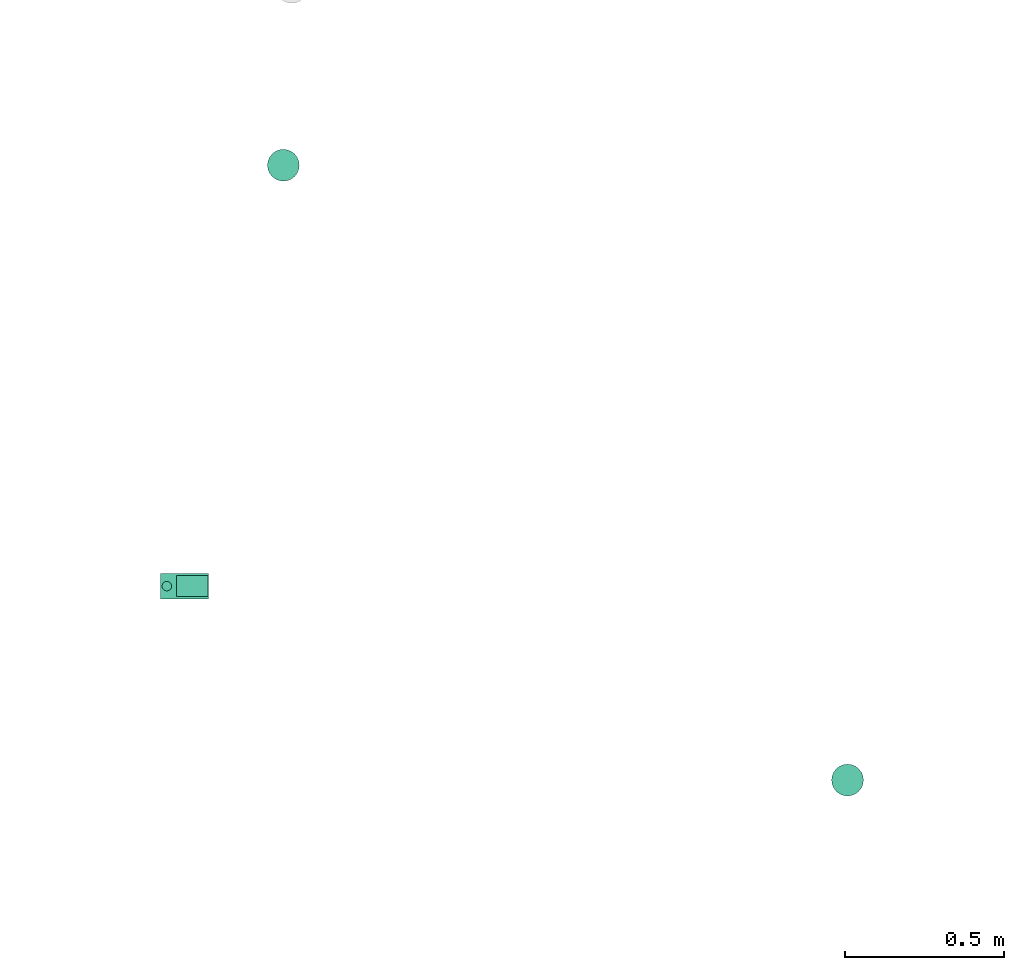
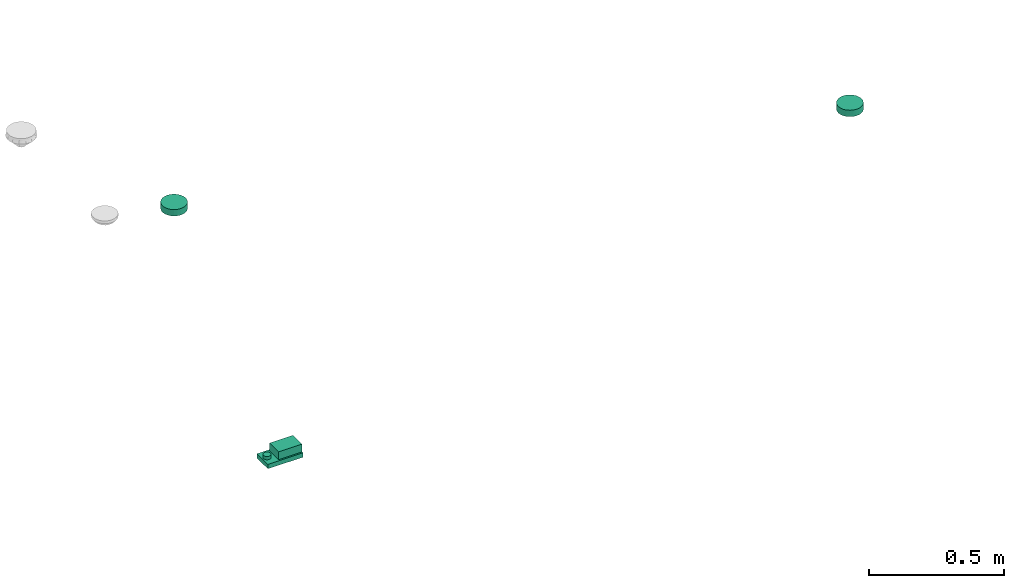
# One storey, part 4 of 10: 3 distribution control elements.
"""IFC2X3 building model written with IfcOpenShell, lengths in millimetres."""

from ifc_helpers import new_model, entity, si_unit, converted_unit, derived_unit, direction, frame, origin_with_axes, place, context, subcontext, project, spatial, open_shell, surface_model, source, transform, mapped, type_object, element, save


model = new_model("IFC2X3")

# Units and contexts
model_context = context("Model", 3, precision=0.01, world=frame((0.0, 4.29681676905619e-09, 0.0)), true_north=direction((4.01073788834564e-13, 1.0)))
plan_context = context("Plan", 3, precision=0.01, world=frame((0.0, 4.29681676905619e-09, 0.0)), true_north=direction((4.01073788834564e-13, 1.0)))
body_context = subcontext(model_context, "Body", "Model", "MODEL_VIEW")
ifc_project = project(units=[converted_unit("PLANEANGLEUNIT", "DEGREE", entity("IfcPositiveLengthMeasure", 0.0174532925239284), si_unit("PLANEANGLEUNIT", "RADIAN"), dimensions=[0, 0, 0, 0, 0, 0, 0]), si_unit("AREAUNIT", "SQUARE_METRE"), si_unit("LENGTHUNIT", "METRE", prefix="MILLI"), si_unit("MASSUNIT", "GRAM", prefix="KILO"), si_unit("POWERUNIT", "WATT"), si_unit("PRESSUREUNIT", "PASCAL"), si_unit("FORCEUNIT", "NEWTON", prefix="KILO"), si_unit("ELECTRICVOLTAGEUNIT", "VOLT"), si_unit("ELECTRICCURRENTUNIT", "AMPERE"), si_unit("THERMODYNAMICTEMPERATUREUNIT", "DEGREE_CELSIUS"), si_unit("TIMEUNIT", "SECOND"), si_unit("VOLUMEUNIT", "CUBIC_METRE"), derived_unit("LINEARVELOCITYUNIT", [(si_unit("LENGTHUNIT", "METRE"), 1), (si_unit("TIMEUNIT", "SECOND"), -1)]), derived_unit("VOLUMETRICFLOWRATEUNIT", [(si_unit("VOLUMEUNIT", "CUBIC_METRE"), 1), (si_unit("TIMEUNIT", "SECOND"), -1)]), derived_unit("THERMALTRANSMITTANCEUNIT", [(si_unit("POWERUNIT", "WATT"), 1), (si_unit("THERMODYNAMICTEMPERATUREUNIT", "KELVIN"), -1), (si_unit("AREAUNIT", "SQUARE_METRE"), -1)]), derived_unit("SOUNDPRESSUREUNIT", [(si_unit("PRESSUREUNIT", "PASCAL"), 1)])], contexts=[model_context, plan_context])

# Site, building, storey
site_placement = place(None, frame((0.0, -4.29681676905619e-09, 0.0), z_axis=(0.0, 0.0, 1.0), x_axis=(1.0, 0.0, 0.0)))
site = spatial("IfcSite", under=ifc_project, at=site_placement, Name="ENGM", CompositionType="ELEMENT")
building_placement = place(site_placement, frame((0.0, 4.29681676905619e-09, 0.0), z_axis=(0.0, 0.0, 1.0), x_axis=(1.0, 0.0, 0.0)))
building = spatial("IfcBuilding", under=site, at=building_placement, Name="TS", CompositionType="ELEMENT")
storey_placement = place(building_placement, frame((0.0, 0.0, 210900.0), z_axis=(0.0, 0.0, 1.0), x_axis=(1.0, 0.0, 0.0)))
storey = spatial("IfcBuildingStorey", under=building, at=storey_placement, Name="Nivå F", CompositionType="ELEMENT", Elevation=210900.0)

# Distribution control elements
alarm_type_1 = type_object("IfcAlarmType", Name="Standard", PredefinedType="NOTDEFINED")
shared_shape_1 = source(origin_with_axes(), body_context, "Body", "SurfaceModel", [
    surface_model("IfcShellBasedSurfaceModel", [(-25.0, 43.30127, -28.9), (-35.35534, 35.35534, -28.9), (-18.0, 31.17691, -28.9), (-25.45584, 25.45584, -28.9), (-9.31749, 34.77333, -28.9), (-12.94095, 48.29629, -28.9), (0.0, 36.0, -28.9), (0.0, 50.0, -28.9), (-34.77333, 9.31749, -28.9), (-43.30127, 25.0, -28.9), (-48.29629, 12.94095, -28.9), (-36.0, 0.0, -28.9), (-50.0, 0.0, -28.9), (-31.17691, 18.0, -28.9), (9.31749, 34.77333, -28.9), (12.94095, 48.29629, -28.9), (18.0, 31.17691, -28.9), (35.35534, 35.35534, -28.9), (25.0, 43.30127, -28.9), (25.45584, 25.45584, -28.9), (31.17691, 18.0, -28.9), (34.77333, 9.31749, -28.9), (43.30127, 25.0, -28.9), (48.29629, 12.94095, -28.9), (36.0, 0.0, -28.9), (50.0, 0.0, -28.9), (-34.77333, -9.31749, -28.9), (-48.29629, -12.94095, -28.9), (-31.17691, -18.0, -28.9), (-43.30127, -25.0, -28.9), (-25.45584, -25.45584, -28.9), (-35.35534, -35.35534, -28.9), (-18.0, -31.17691, -28.9), (-25.0, -43.30127, -28.9), (-9.31749, -34.77333, -28.9), (-12.94095, -48.29629, -28.9), (0.0, -36.0, -28.9), (0.0, -50.0, -28.9), (43.30127, -25.0, -28.9), (31.17691, -18.0, -28.9), (35.35534, -35.35534, -28.9), (34.77333, -9.31749, -28.9), (48.29629, -12.94095, -28.9), (25.45584, -25.45584, -28.9), (9.31749, -34.77333, -28.9), (12.94095, -48.29629, -28.9), (18.0, -31.17691, -28.9), (25.0, -43.30127, -28.9), (-25.0, -43.30127, -29.1), (-35.35534, -35.35534, -29.1), (-18.0, -31.17691, -29.1), (-25.45584, -25.45584, -29.1), (-9.31749, -34.77333, -29.1), (-12.94095, -48.29629, -29.1), (0.0, -36.0, -29.1), (0.0, -50.0, -29.1), (-34.77333, -9.31749, -29.1), (-43.30127, -25.0, -29.1), (-48.29629, -12.94095, -29.1), (-36.0, 0.0, -29.1), (-50.0, 0.0, -29.1), (-31.17691, -18.0, -29.1), (9.31749, -34.77333, -29.1), (12.94095, -48.29629, -29.1), (18.0, -31.17691, -29.1), (35.35534, -35.35534, -29.1), (25.0, -43.30127, -29.1), (25.45584, -25.45584, -29.1), (31.17691, -18.0, -29.1), (34.77333, -9.31749, -29.1), (43.30127, -25.0, -29.1), (48.29629, -12.94095, -29.1), (36.0, 0.0, -29.1), (50.0, 0.0, -29.1), (-34.77333, 9.31749, -29.1), (-48.29629, 12.94095, -29.1), (-31.17691, 18.0, -29.1), (-43.30127, 25.0, -29.1), (-25.45584, 25.45584, -29.1), (-35.35534, 35.35534, -29.1), (-18.0, 31.17691, -29.1), (-25.0, 43.30127, -29.1), (-9.31749, 34.77333, -29.1), (-12.94095, 48.29629, -29.1), (0.0, 36.0, -29.1), (0.0, 50.0, -29.1), (43.30127, 25.0, -29.1), (31.17691, 18.0, -29.1), (35.35534, 35.35534, -29.1), (34.77333, 9.31749, -29.1), (48.29629, 12.94095, -29.1), (25.45584, 25.45584, -29.1), (9.31749, 34.77333, -29.1), (12.94095, 48.29629, -29.1), (18.0, 31.17691, -29.1), (25.0, 43.30127, -29.1), (6.47048, -24.14815, -44.9), (12.5, -21.65064, -44.9), (17.67767, -17.67767, -44.9), (24.14815, -6.47048, -44.9), (-24.14815, -6.47048, -44.9), (21.65064, -12.5, -44.9), (-21.65064, 12.5, -44.9), (0.0, -25.0, -44.9), (-12.5, -21.65064, -44.9), (-6.47048, -24.14815, -44.9), (-17.67767, -17.67767, -44.9), (-21.65064, -12.5, -44.9), (25.0, 0.0, -44.9), (24.14815, 6.47048, -44.9), (21.65064, 12.5, -44.9), (17.67767, 17.67767, -44.9), (12.5, 21.65064, -44.9), (6.47048, 24.14815, -44.9), (0.0, 25.0, -44.9), (-25.0, 0.0, -44.9), (-24.14815, 6.47048, -44.9), (-12.5, 21.65064, -44.9), (-17.67767, 17.67767, -44.9), (-6.47048, 24.14815, -44.9), (0.0, 25.0, -45.1), (6.47048, 24.14815, -45.1), (12.5, 21.65064, -45.1), (-21.65064, 12.5, -45.1), (17.67767, 17.67767, -45.1), (21.65064, 12.5, -45.1), (24.14815, 6.47048, -45.1), (-12.5, 21.65064, -45.1), (-17.67767, 17.67767, -45.1), (-6.47048, 24.14815, -45.1), (-25.0, 0.0, -45.1), (-24.14815, 6.47048, -45.1), (-24.14815, -6.47048, -45.1), (24.14815, -6.47048, -45.1), (6.47048, -24.14815, -45.1), (21.65064, -12.5, -45.1), (17.67767, -17.67767, -45.1), (12.5, -21.65064, -45.1), (-12.5, -21.65064, -45.1), (-17.67767, -17.67767, -45.1), (-21.65064, -12.5, -45.1), (0.0, -25.0, -45.1), (-6.47048, -24.14815, -45.1), (25.0, 0.0, -45.1), (-1.46739, 34.60682, -29.0), (0.0, 34.8, -29.0), (0.0, 35.0, -29.0), (-34.60682, 1.46739, -29.0), (-35.0, 0.0, -29.0), (-34.8, 0.0, -29.0), (-17.5, 30.31089, -29.0), (-18.5742, 29.23669, -29.0), (-17.4, 30.13768, -29.0), (-24.60732, -24.60732, -29.0), (-18.5742, -29.23669, -29.0), (-29.23669, -18.5742, -29.0), (34.8, 0.0, -29.0), (34.60682, -1.46739, -29.0), (35.0, 0.0, -29.0), (17.4, 30.13768, -29.0), (17.5, 30.31089, -29.0), (16.03261, 30.70407, -29.0), (30.13768, 17.4, -29.0), (30.31089, 17.5, -29.0), (29.23669, 18.5742, -29.0), (34.60682, 1.46739, -29.0), (33.61422, -9.0069, -29.0), (30.70407, -16.03261, -29.0), (-33.61422, -9.0069, -29.0), (-30.70407, -16.03261, -29.0), (-34.60682, -1.46739, -29.0), (-30.13768, -17.4, -29.0), (-30.31089, -17.5, -29.0), (-17.5, -30.31089, -29.0), (-17.4, -30.13768, -29.0), (-1.46739, -34.60682, -29.0), (0.0, -35.0, -29.0), (0.0, -34.8, -29.0), (-16.03261, -30.70407, -29.0), (-9.0069, -33.61422, -29.0), (1.46739, -34.60682, -29.0), (30.13768, -17.4, -29.0), (29.23669, -18.5742, -29.0), (30.31089, -17.5, -29.0), (24.60732, -24.60732, -29.0), (18.5742, -29.23669, -29.0), (9.0069, -33.61422, -29.0), (16.03261, -30.70407, -29.0), (-30.13768, 17.4, -29.0), (-30.31089, 17.5, -29.0), (-30.70407, 16.03261, -29.0), (17.4, -30.13768, -29.0), (17.5, -30.31089, -29.0), (-33.61422, 9.0069, -29.0), (-29.23669, 18.5742, -29.0), (-24.60732, 24.60732, -29.0), (-16.03261, 30.70407, -29.0), (-9.0069, 33.61422, -29.0), (1.46739, 34.60682, -29.0), (9.0069, 33.61422, -29.0), (18.5742, 29.23669, -29.0), (24.60732, 24.60732, -29.0), (30.70407, 16.03261, -29.0), (33.61422, 9.0069, -29.0), (23.00389, 18.55381, -38.25), (14.9, 25.80756, -38.25), (21.07178, 21.07178, -38.25), (29.66376, 1.03484, -38.25), (30.0, 0.0, -38.25), (29.8, 0.0, -38.25), (24.27051, 17.63356, -38.25), (24.68215, 16.36666, -38.25), (10.52665, 27.61906, -38.25), (28.78459, 7.71281, -38.25), (-10.52665, 27.61906, -38.25), (-23.00389, 18.55381, -38.25), (-14.9, 25.80756, -38.25), (8.32335, 28.5317, -38.25), (0.0, 29.8, -38.25), (7.71281, 28.78459, -38.25), (-8.32335, 28.5317, -38.25), (-24.68215, 16.36666, -38.25), (-28.78459, 7.71281, -38.25), (-25.80756, 14.9, -38.25), (-9.27051, 28.5317, -38.25), (-29.66376, 1.03484, -38.25), (-29.8, 0.0, -38.25), (-30.0, 0.0, -38.25), (-28.78459, -7.71281, -38.25), (-24.68215, -16.36666, -38.25), (-25.80756, -14.9, -38.25), (29.66376, -1.03484, -38.25), (-7.71281, 28.78459, -38.25), (25.80756, 14.9, -38.25), (14.9, -25.80756, -38.25), (10.52665, -27.61906, -38.25), (23.00389, -18.55381, -38.25), (28.78459, -7.71281, -38.25), (24.68215, -16.36666, -38.25), (0.0, -29.8, -38.25), (-7.71281, -28.78459, -38.25), (-8.32335, -28.5317, -38.25), (8.32335, -28.5317, -38.25), (9.27051, 28.5317, -38.25), (-29.66376, -1.03484, -38.25), (21.07178, -21.07178, -38.25), (-23.00389, -18.55381, -38.25), (-24.27051, -17.63356, -38.25), (-9.27051, -28.5317, -38.25), (-10.52665, -27.61906, -38.25), (-21.07178, -21.07178, -38.25), (-14.9, -25.80756, -38.25), (9.27051, -28.5317, -38.25), (7.71281, -28.78459, -38.25), (24.27051, -17.63356, -38.25), (25.80756, -14.9, -38.25), (-21.07178, 21.07178, -38.25), (-24.27051, 17.63356, -38.25), (33.28589, -6.39713, -29.0), (27.13526, -8.81678, -38.25), (-16.77051, -23.08263, -38.25), (-23.90544, -23.90544, -29.0), (-27.13526, -8.81678, -38.25), (-33.28589, -6.39713, -29.0), (16.77051, -23.08263, -38.25), (8.75, -32.65544, -29.0), (0.0, -28.5317, -38.25), (23.90544, -23.90544, -29.0), (-8.75, -32.65544, -29.0), (-33.28589, 6.39713, -29.0), (-27.13526, 8.81678, -38.25), (16.77051, 23.08263, -38.25), (23.90544, 23.90544, -29.0), (27.13526, 8.81678, -38.25), (33.28589, 6.39713, -29.0), (-16.77051, 23.08263, -38.25), (-8.75, 32.65544, -29.0), (0.0, 28.5317, -38.25), (-23.90544, 23.90544, -29.0), (8.75, 32.65544, -29.0), (12.4, 21.47743, -45.0), (17.53625, 17.53625, -45.0), (19.07577, 15.5299, -45.0), (20.22543, 14.69463, -45.0), (20.59905, 13.54472, -45.0), (24.66376, 1.03484, -45.0), (25.0, 0.0, -45.0), (24.8, 0.0, -45.0), (8.88673, 22.93267, -45.0), (23.95496, 6.41871, -45.0), (-8.88673, 22.93267, -45.0), (-19.07577, 15.5299, -45.0), (-12.4, 21.47743, -45.0), (6.84976, 23.77641, -45.0), (0.0, 24.8, -45.0), (6.41871, 23.95496, -45.0), (-7.72542, 23.77641, -45.0), (-6.84976, 23.77641, -45.0), (-21.47743, 12.4, -45.0), (-20.59905, 13.54472, -45.0), (-23.95496, 6.41871, -45.0), (-25.0, 0.0, -45.0), (-24.66376, 1.03484, -45.0), (-24.8, 0.0, -45.0), (-23.95496, -6.41871, -45.0), (-20.59905, -13.54472, -45.0), (-21.47743, -12.4, -45.0), (-6.41871, 23.95496, -45.0), (24.66376, -1.03484, -45.0), (21.47743, 12.4, -45.0), (12.4, -21.47743, -45.0), (8.88673, -22.93267, -45.0), (19.07577, -15.5299, -45.0), (23.95496, -6.41871, -45.0), (20.59905, -13.54472, -45.0), (0.0, -24.8, -45.0), (-6.41871, -23.95496, -45.0), (-6.84976, -23.77641, -45.0), (7.72542, -23.77641, -45.0), (6.84976, -23.77641, -45.0), (7.72542, 23.77641, -45.0), (-24.66376, -1.03484, -45.0), (17.53625, -17.53625, -45.0), (-20.22543, -14.69463, -45.0), (-19.07577, -15.5299, -45.0), (-8.88673, -22.93267, -45.0), (-7.72542, -23.77641, -45.0), (-17.53625, -17.53625, -45.0), (-12.4, -21.47743, -45.0), (6.41871, -23.95496, -45.0), (20.22543, -14.69463, -45.0), (21.47743, -12.4, -45.0), (-17.53625, 17.53625, -45.0), (-20.22543, 14.69463, -45.0), (-22.61271, -7.34732, -45.0), (-13.97542, -19.23552, -45.0), (0.0, -23.77641, -45.0), (21.83768, -9.73262, -45.0), (13.97542, -19.23552, -45.0), (23.41884, -4.86631, -45.0), (22.61271, 7.34732, -45.0), (13.97542, 19.23552, -45.0), (0.0, 23.77641, -45.0), (-21.83768, 9.73262, -45.0), (-13.97542, 19.23552, -45.0), (-23.41884, 4.86631, -45.0), (12.94095, -48.29629, 0.0), (25.0, -43.30127, 0.0), (35.35534, -35.35534, 0.0), (48.29629, -12.94095, 0.0), (-48.29629, -12.94095, 0.0), (43.30127, -25.0, 0.0), (-43.30127, 25.0, 0.0), (0.0, -50.0, 0.0), (-25.0, -43.30127, 0.0), (-12.94095, -48.29629, 0.0), (-35.35534, -35.35534, 0.0), (-43.30127, -25.0, 0.0), (50.0, 0.0, 0.0), (48.29629, 12.94095, 0.0), (43.30127, 25.0, 0.0), (35.35534, 35.35534, 0.0), (25.0, 43.30127, 0.0), (12.94095, 48.29629, 0.0), (0.0, 50.0, 0.0), (-50.0, 0.0, 0.0), (-48.29629, 12.94095, 0.0), (-25.0, 43.30127, 0.0), (-35.35534, 35.35534, 0.0), (-12.94095, 48.29629, 0.0), (0.0, 50.0, -29.0), (12.94095, 48.29629, -29.0), (25.0, 43.30127, -29.0), (-43.30127, 25.0, -29.0), (35.35534, 35.35534, -29.0), (43.30127, 25.0, -29.0), (48.29629, 12.94095, -29.0), (-25.0, 43.30127, -29.0), (-35.35534, 35.35534, -29.0), (-12.94095, 48.29629, -29.0), (-50.0, 0.0, -29.0), (-48.29629, 12.94095, -29.0), (-48.29629, -12.94095, -29.0), (48.29629, -12.94095, -29.0), (12.94095, -48.29629, -29.0), (43.30127, -25.0, -29.0), (35.35534, -35.35534, -29.0), (25.0, -43.30127, -29.0), (-25.0, -43.30127, -29.0), (-35.35534, -35.35534, -29.0), (-43.30127, -25.0, -29.0), (0.0, -50.0, -29.0), (-12.94095, -48.29629, -29.0), (50.0, 0.0, -29.0)], [open_shell([[[0, 1, 2]], [[2, 1, 3]], [[0, 2, 4]], [[5, 4, 6]], [[4, 5, 0]], [[5, 6, 7]], [[8, 9, 10]], [[11, 10, 12]], [[8, 10, 11]], [[13, 3, 9]], [[8, 13, 9]], [[9, 3, 1]], [[7, 14, 15]], [[14, 7, 6]], [[15, 14, 16]], [[17, 18, 19]], [[16, 18, 15]], [[19, 18, 16]], [[20, 21, 22]], [[20, 22, 17]], [[21, 23, 22]], [[23, 21, 24]], [[23, 24, 25]], [[20, 17, 19]], [[26, 12, 27]], [[28, 27, 29]], [[28, 26, 27]], [[30, 28, 29]], [[29, 31, 30]], [[32, 31, 33]], [[31, 32, 30]], [[32, 33, 34]], [[34, 35, 36]], [[35, 34, 33]], [[36, 35, 37]], [[38, 39, 40]], [[41, 39, 42]], [[41, 42, 25]], [[42, 39, 38]], [[39, 43, 40]], [[25, 24, 41]], [[44, 37, 45]], [[37, 44, 36]], [[44, 45, 46]], [[47, 40, 43]], [[47, 46, 45]], [[47, 43, 46]], [[26, 11, 12]], [[48, 49, 50]], [[50, 49, 51]], [[48, 50, 52]], [[53, 52, 54]], [[52, 53, 48]], [[53, 54, 55]], [[56, 57, 58]], [[59, 58, 60]], [[56, 58, 59]], [[61, 51, 57]], [[56, 61, 57]], [[57, 51, 49]], [[55, 62, 63]], [[62, 55, 54]], [[63, 62, 64]], [[65, 66, 67]], [[64, 66, 63]], [[67, 66, 64]], [[68, 69, 70]], [[68, 70, 65]], [[69, 71, 70]], [[71, 69, 72]], [[71, 72, 73]], [[68, 65, 67]], [[74, 60, 75]], [[76, 75, 77]], [[76, 74, 75]], [[78, 76, 77]], [[77, 79, 78]], [[80, 79, 81]], [[79, 80, 78]], [[80, 81, 82]], [[82, 83, 84]], [[83, 82, 81]], [[84, 83, 85]], [[86, 87, 88]], [[89, 87, 90]], [[89, 90, 73]], [[90, 87, 86]], [[87, 91, 88]], [[73, 72, 89]], [[92, 85, 93]], [[85, 92, 84]], [[92, 93, 94]], [[95, 88, 91]], [[95, 94, 93]], [[95, 91, 94]], [[74, 59, 60]], [[11, 59, 8]], [[8, 74, 13]], [[2, 3, 78]], [[76, 3, 13]], [[4, 2, 80]], [[74, 76, 13]], [[8, 59, 74]], [[84, 6, 82]], [[4, 80, 82]], [[80, 2, 78]], [[3, 76, 78]], [[4, 82, 6]], [[14, 92, 16]], [[16, 94, 19]], [[21, 20, 87]], [[91, 20, 19]], [[24, 21, 89]], [[92, 94, 16]], [[14, 84, 92]], [[21, 87, 89]], [[87, 20, 91]], [[19, 94, 91]], [[24, 89, 72]], [[6, 84, 14]], [[24, 72, 41]], [[41, 69, 39]], [[46, 43, 67]], [[68, 43, 39]], [[44, 46, 64]], [[69, 68, 39]], [[41, 72, 69]], [[54, 36, 62]], [[44, 64, 62]], [[64, 46, 67]], [[43, 68, 67]], [[44, 62, 36]], [[34, 52, 32]], [[32, 50, 30]], [[26, 28, 61]], [[51, 28, 30]], [[11, 26, 56]], [[52, 50, 32]], [[34, 54, 52]], [[26, 61, 56]], [[61, 28, 51]], [[30, 50, 51]], [[11, 56, 59]], [[36, 54, 34]], [[58, 27, 60]], [[57, 29, 58]], [[33, 49, 48]], [[57, 49, 31]], [[35, 48, 53]], [[58, 29, 27]], [[27, 12, 60]], [[35, 33, 48]], [[31, 49, 33]], [[31, 29, 57]], [[37, 35, 53]], [[53, 55, 37]], [[63, 45, 55]], [[66, 47, 63]], [[38, 65, 70]], [[66, 65, 40]], [[42, 70, 71]], [[66, 40, 47]], [[47, 45, 63]], [[25, 42, 71]], [[38, 70, 42]], [[38, 40, 65]], [[73, 25, 71]], [[55, 45, 37]], [[90, 23, 73]], [[86, 22, 90]], [[18, 88, 95]], [[86, 88, 17]], [[15, 95, 93]], [[90, 22, 23]], [[23, 25, 73]], [[15, 18, 95]], [[17, 88, 18]], [[17, 22, 86]], [[7, 15, 93]], [[93, 85, 7]], [[83, 5, 85]], [[81, 0, 83]], [[9, 79, 77]], [[81, 79, 1]], [[10, 77, 75]], [[81, 1, 0]], [[0, 5, 83]], [[12, 10, 75]], [[9, 77, 10]], [[9, 1, 79]], [[60, 12, 75]], [[85, 5, 7]], [[96, 97, 98]], [[96, 98, 99]], [[96, 99, 100]], [[99, 98, 101]], [[102, 100, 99]], [[103, 104, 105]], [[103, 96, 104]], [[106, 100, 107]], [[106, 104, 96]], [[100, 106, 96]], [[99, 108, 102]], [[109, 110, 111]], [[109, 111, 112]], [[112, 113, 114]], [[109, 112, 102]], [[102, 112, 114]], [[115, 102, 116]], [[100, 102, 115]], [[102, 117, 118]], [[117, 102, 119]], [[114, 119, 102]], [[102, 108, 109]], [[120, 121, 122]], [[123, 120, 122]], [[124, 125, 126]], [[124, 126, 122]], [[123, 122, 126]], [[127, 123, 128]], [[123, 127, 129]], [[123, 130, 131]], [[123, 129, 120]], [[123, 132, 130]], [[123, 126, 133]], [[132, 123, 133]], [[134, 133, 135]], [[136, 137, 134]], [[136, 134, 135]], [[138, 133, 134]], [[132, 139, 140]], [[132, 133, 139]], [[138, 141, 142]], [[139, 133, 138]], [[134, 141, 138]], [[133, 126, 143]], [[132, 100, 130]], [[140, 107, 132]], [[104, 139, 138]], [[140, 139, 106]], [[105, 138, 142]], [[132, 107, 100]], [[100, 115, 130]], [[105, 104, 138]], [[106, 139, 104]], [[106, 107, 140]], [[103, 105, 142]], [[142, 141, 103]], [[134, 96, 141]], [[137, 97, 134]], [[101, 136, 135]], [[137, 136, 98]], [[99, 135, 133]], [[137, 98, 97]], [[97, 96, 134]], [[108, 99, 133]], [[101, 135, 99]], [[101, 98, 136]], [[143, 108, 133]], [[141, 96, 103]], [[126, 109, 143]], [[125, 110, 126]], [[112, 124, 122]], [[125, 124, 111]], [[113, 122, 121]], [[126, 110, 109]], [[109, 108, 143]], [[113, 112, 122]], [[111, 124, 112]], [[111, 110, 125]], [[114, 113, 121]], [[121, 120, 114]], [[129, 119, 120]], [[127, 117, 129]], [[102, 128, 123]], [[127, 128, 118]], [[116, 123, 131]], [[127, 118, 117]], [[117, 119, 129]], [[115, 116, 131]], [[102, 123, 116]], [[102, 118, 128]], [[130, 115, 131]], [[120, 119, 114]], [[144, 145, 146]], [[147, 148, 149]], [[150, 151, 152]], [[153, 154, 155]], [[156, 157, 158]], [[159, 160, 161]], [[162, 163, 164]], [[156, 158, 165]], [[166, 157, 167]], [[168, 169, 170]], [[170, 149, 148]], [[171, 169, 172]], [[173, 174, 154]], [[175, 176, 177]], [[174, 173, 178]], [[155, 171, 172]], [[179, 175, 178]], [[180, 177, 176]], [[181, 182, 183]], [[181, 183, 167]], [[184, 182, 185]], [[186, 187, 180]], [[188, 189, 190]], [[191, 192, 185]], [[191, 187, 192]], [[193, 147, 190]], [[188, 194, 189]], [[195, 194, 151]], [[152, 196, 150]], [[197, 196, 144]], [[145, 198, 146]], [[199, 198, 161]], [[159, 200, 160]], [[201, 200, 164]], [[162, 202, 163]], [[203, 202, 165]], [[204, 205, 206]], [[207, 208, 209]], [[204, 210, 211]], [[205, 204, 212]], [[213, 207, 211]], [[214, 215, 216]], [[217, 218, 219]], [[218, 217, 220]], [[221, 222, 223]], [[220, 214, 224]], [[225, 226, 227]], [[228, 229, 230]], [[209, 208, 231]], [[218, 220, 232]], [[213, 211, 233]], [[234, 235, 236]], [[237, 238, 231]], [[239, 240, 241]], [[241, 242, 239]], [[243, 212, 217]], [[227, 226, 244]], [[234, 236, 245]], [[229, 246, 247]], [[241, 248, 249]], [[250, 246, 251]], [[228, 244, 229]], [[235, 252, 242]], [[239, 242, 253]], [[236, 238, 254]], [[238, 237, 255]], [[251, 246, 249]], [[216, 215, 256]], [[215, 221, 257]], [[222, 221, 225]], [[208, 158, 258]], [[183, 259, 258]], [[260, 261, 247]], [[172, 262, 247]], [[263, 227, 262]], [[192, 252, 264]], [[260, 248, 173]], [[261, 260, 173]], [[252, 265, 266]], [[227, 263, 148]], [[172, 263, 262]], [[258, 259, 208]], [[254, 267, 264]], [[268, 173, 248]], [[252, 192, 265]], [[192, 264, 267]], [[267, 254, 183]], [[259, 183, 254]], [[268, 266, 176]], [[265, 176, 266]], [[248, 266, 268]], [[172, 247, 261]], [[227, 148, 269]], [[189, 270, 269]], [[271, 272, 210]], [[163, 273, 210]], [[274, 208, 273]], [[150, 224, 275]], [[271, 243, 160]], [[272, 271, 160]], [[224, 276, 277]], [[208, 274, 158]], [[163, 274, 273]], [[269, 270, 227]], [[257, 278, 275]], [[279, 160, 243]], [[224, 150, 276]], [[150, 275, 278]], [[278, 257, 189]], [[270, 189, 257]], [[279, 277, 146]], [[276, 146, 277]], [[243, 277, 279]], [[163, 210, 272]], [[171, 230, 228]], [[168, 228, 226]], [[179, 240, 251]], [[174, 251, 250]], [[153, 250, 230]], [[168, 171, 228]], [[226, 149, 168]], [[251, 174, 179]], [[174, 250, 153]], [[230, 171, 153]], [[240, 179, 177]], [[177, 239, 240]], [[184, 245, 234]], [[191, 234, 253]], [[156, 209, 237]], [[166, 237, 255]], [[181, 255, 245]], [[239, 186, 253]], [[186, 191, 253]], [[177, 186, 239]], [[184, 181, 245]], [[191, 184, 234]], [[181, 166, 255]], [[166, 156, 237]], [[162, 233, 213]], [[203, 213, 209]], [[199, 219, 205]], [[159, 205, 206]], [[201, 206, 233]], [[203, 162, 213]], [[209, 156, 203]], [[205, 159, 199]], [[159, 206, 201]], [[233, 162, 201]], [[219, 199, 145]], [[145, 218, 219]], [[195, 256, 216]], [[152, 216, 232]], [[149, 226, 222]], [[193, 222, 223]], [[188, 223, 256]], [[218, 197, 232]], [[197, 152, 232]], [[145, 197, 218]], [[195, 188, 256]], [[152, 195, 216]], [[188, 193, 223]], [[193, 149, 222]], [[215, 216, 256]], [[221, 222, 225]], [[225, 227, 226]], [[257, 221, 215]], [[216, 215, 214]], [[212, 204, 205]], [[220, 218, 232]], [[218, 220, 217]], [[217, 212, 243]], [[233, 211, 213]], [[208, 207, 209]], [[237, 238, 255]], [[252, 235, 242]], [[218, 217, 219]], [[227, 244, 226]], [[222, 221, 223]], [[228, 229, 244]], [[239, 253, 242]], [[246, 251, 249]], [[249, 248, 241]], [[231, 238, 237]], [[208, 209, 231]], [[251, 246, 250]], [[254, 238, 236]], [[236, 234, 245]], [[214, 220, 224]], [[242, 241, 239]], [[239, 241, 240]], [[246, 229, 247]], [[230, 229, 228]], [[234, 236, 235]], [[205, 204, 206]], [[204, 211, 210]], [[213, 211, 207]], [[280, 281, 282]], [[282, 283, 284]], [[285, 286, 287]], [[280, 282, 288]], [[289, 285, 284]], [[290, 291, 292]], [[293, 294, 295]], [[290, 296, 297]], [[294, 293, 297]], [[298, 299, 300]], [[301, 302, 303]], [[304, 305, 306]], [[294, 297, 307]], [[308, 287, 286]], [[289, 284, 309]], [[310, 311, 312]], [[313, 314, 308]], [[315, 316, 317]], [[311, 318, 319]], [[293, 320, 288]], [[301, 303, 321]], [[310, 312, 322]], [[323, 305, 324]], [[325, 317, 326]], [[327, 324, 328]], [[304, 321, 305]], [[317, 319, 315]], [[315, 319, 329]], [[312, 314, 330]], [[331, 314, 313]], [[328, 324, 325]], [[292, 291, 332]], [[291, 299, 333]], [[300, 299, 302]], [[262, 301, 334]], [[334, 323, 247]], [[248, 335, 326]], [[301, 262, 227]], [[334, 247, 262]], [[260, 323, 335]], [[266, 248, 326]], [[336, 252, 266]], [[252, 336, 318]], [[323, 260, 247]], [[248, 260, 335]], [[254, 337, 259]], [[318, 264, 252]], [[338, 254, 264]], [[339, 286, 208]], [[264, 318, 338]], [[259, 339, 208]], [[338, 330, 254]], [[266, 326, 336]], [[259, 337, 339]], [[337, 254, 330]], [[273, 286, 340]], [[340, 283, 210]], [[243, 341, 320]], [[286, 273, 208]], [[340, 210, 273]], [[271, 283, 341]], [[277, 243, 320]], [[342, 224, 277]], [[224, 342, 296]], [[283, 271, 210]], [[243, 271, 341]], [[257, 343, 270]], [[296, 275, 224]], [[344, 257, 275]], [[345, 301, 227]], [[275, 296, 344]], [[270, 345, 227]], [[344, 333, 257]], [[277, 320, 342]], [[270, 343, 345]], [[343, 257, 333]], [[230, 306, 304]], [[228, 304, 303]], [[240, 316, 328]], [[251, 328, 327]], [[250, 327, 306]], [[228, 230, 304]], [[303, 226, 228]], [[328, 251, 240]], [[251, 327, 250]], [[306, 230, 250]], [[316, 240, 239]], [[239, 315, 316]], [[245, 322, 310]], [[234, 310, 329]], [[209, 287, 313]], [[237, 313, 331]], [[255, 331, 322]], [[315, 253, 329]], [[253, 234, 329]], [[239, 253, 315]], [[255, 322, 245]], [[234, 245, 310]], [[331, 255, 237]], [[237, 209, 313]], [[233, 309, 289]], [[213, 289, 287]], [[219, 295, 280]], [[205, 280, 281]], [[206, 281, 309]], [[213, 233, 289]], [[287, 209, 213]], [[280, 205, 219]], [[205, 281, 206]], [[309, 233, 206]], [[295, 219, 218]], [[218, 294, 295]], [[256, 332, 292]], [[216, 292, 307]], [[226, 303, 300]], [[222, 300, 298]], [[223, 298, 332]], [[294, 232, 307]], [[232, 216, 307]], [[218, 232, 294]], [[223, 332, 256]], [[216, 256, 292]], [[298, 223, 222]], [[222, 226, 300]], [[346, 347, 348]], [[346, 348, 349]], [[346, 349, 350]], [[349, 348, 351]], [[352, 350, 349]], [[353, 354, 355]], [[353, 346, 354]], [[356, 350, 357]], [[356, 354, 346]], [[350, 356, 346]], [[349, 358, 352]], [[359, 360, 361]], [[359, 361, 362]], [[362, 363, 364]], [[359, 362, 352]], [[352, 362, 364]], [[365, 352, 366]], [[350, 352, 365]], [[352, 367, 368]], [[367, 352, 369]], [[364, 369, 352]], [[352, 358, 359]], [[370, 371, 372]], [[373, 370, 372]], [[374, 375, 376]], [[374, 376, 372]], [[373, 372, 376]], [[377, 373, 378]], [[373, 377, 379]], [[373, 380, 381]], [[373, 379, 370]], [[373, 382, 380]], [[373, 376, 383]], [[382, 373, 383]], [[384, 383, 385]], [[386, 387, 384]], [[386, 384, 385]], [[388, 383, 384]], [[382, 389, 390]], [[382, 383, 389]], [[388, 391, 392]], [[389, 383, 388]], [[384, 391, 388]], [[383, 376, 393]], [[382, 350, 380]], [[390, 357, 382]], [[354, 389, 388]], [[390, 389, 356]], [[355, 388, 392]], [[382, 357, 350]], [[350, 365, 380]], [[355, 354, 388]], [[356, 389, 354]], [[356, 357, 390]], [[353, 355, 392]], [[392, 391, 353]], [[384, 346, 391]], [[387, 347, 384]], [[351, 386, 385]], [[387, 386, 348]], [[349, 385, 383]], [[387, 348, 347]], [[347, 346, 384]], [[358, 349, 383]], [[351, 385, 349]], [[351, 348, 386]], [[393, 358, 383]], [[391, 346, 353]], [[376, 359, 393]], [[375, 360, 376]], [[362, 374, 372]], [[375, 374, 361]], [[363, 372, 371]], [[376, 360, 359]], [[359, 358, 393]], [[363, 362, 372]], [[361, 374, 362]], [[361, 360, 375]], [[364, 363, 371]], [[371, 370, 364]], [[369, 370, 379]], [[367, 379, 377]], [[352, 373, 381]], [[366, 381, 380]], [[379, 367, 369]], [[367, 377, 378]], [[367, 378, 368]], [[368, 378, 352]], [[352, 378, 373]], [[352, 381, 366]], [[380, 365, 366]], [[370, 369, 364]]])]),
])
for number, where, z_axis, x_axis, name in (
    (1, (524540.24, 451274.76, 3800.0), (0.0, 0.0, 1.0), (1.0, 0.0, 0.0), "Standard"),
    (2, (522766.80828, 453207.57885, 2800.0), (0.0, 0.0, 1.0), (1.0, 0.0, 0.0), "Standard"),
):
    element("IfcDistributionControlElement", number, at=place(storey_placement, frame(where, z_axis=z_axis, x_axis=x_axis)), inside=storey, type_object=alarm_type_1, Name=name, context=body_context, shape_type="MappedRepresentation", body=[
        mapped(shared_shape_1, transform((0.0, 0.0, 0.0), scale=1.0)),
    ])
alarm_type_2 = type_object("IfcAlarmType", Name="Brann Spjeld 2", PredefinedType="NOTDEFINED")
shared_shape_2 = source(origin_with_axes(), body_context, "Body", "SurfaceModel", [
    surface_model("IfcShellBasedSurfaceModel", [(-72.68295, -12.99038, 40.0), (-80.18294, -15.0, 40.0), (-76.30066, -14.48889, 40.0), (-65.69406, -3.88229, 40.0), (-69.57634, -10.6066, 40.0), (-94.67183, -3.88229, 40.0), (-95.18294, 0.0, 40.0), (-67.19256, -7.5, 40.0), (-87.68295, -12.99038, 40.0), (-84.06523, -14.48889, 40.0), (-93.17333, -7.5, 40.0), (-90.78954, -10.6066, 40.0), (-65.18294, 0.0, 40.0), (-65.69406, 3.88229, 40.0), (-67.19256, 7.5, 40.0), (-72.68295, 12.99038, 40.0), (-69.57634, 10.6066, 40.0), (-76.30066, 14.48889, 40.0), (-87.68295, 12.99038, 40.0), (-80.18294, 15.0, 40.0), (-93.17333, 7.5, 40.0), (-94.67183, 3.88229, 40.0), (-90.78954, 10.6066, 40.0), (-84.06523, 14.48889, 40.0), (-76.30066, 14.48889, 0.0), (-95.18294, 0.0, 0.0), (-80.18294, 15.0, 0.0), (-67.19256, 7.5, 0.0), (-72.68295, 12.99038, 0.0), (-69.57634, 10.6066, 0.0), (-94.67183, -3.88229, 0.0), (-87.68295, 12.99038, 0.0), (-93.17333, 7.5, 0.0), (-90.78954, 10.6066, 0.0), (-84.06523, 14.48889, 0.0), (-94.67183, 3.88229, 0.0), (-65.69406, 3.88229, 0.0), (-65.69406, -3.88229, 0.0), (-72.68295, -12.99038, 0.0), (-67.19256, -7.5, 0.0), (-69.57634, -10.6066, 0.0), (-76.30066, -14.48889, 0.0), (-93.17333, -7.5, 0.0), (-87.68295, -12.99038, 0.0), (-90.78954, -10.6066, 0.0), (-80.18294, -15.0, 0.0), (-84.06523, -14.48889, 0.0), (-65.18294, 0.0, 0.0), (50.0, -33.30706, 60.0), (50.0, 33.35938, 60.0), (-50.0, 33.35938, 60.0), (-50.0, -33.30706, 60.0), (-50.0, -33.30706, 25.0), (-50.0, 33.35938, 25.0), (50.0, 33.35938, 25.0), (50.0, -33.30706, 25.0), (50.14702, -40.00696, 25.0), (50.14702, 39.99304, 25.0), (-99.85298, 39.99304, 25.0), (-99.85298, -40.00696, 25.0), (-99.85298, -40.00696, 5.0), (-99.85298, 39.99304, 5.0), (50.14702, 39.99304, 5.0), (50.14702, -40.00696, 5.0)], [open_shell([[[0, 1, 2]], [[3, 0, 4]], [[5, 0, 6]], [[3, 4, 7]], [[0, 3, 6]], [[1, 8, 9]], [[8, 1, 5]], [[8, 10, 11]], [[10, 8, 5]], [[1, 0, 5]], [[3, 12, 13]], [[6, 3, 14]], [[15, 14, 16]], [[6, 14, 17]], [[17, 14, 15]], [[18, 17, 19]], [[6, 20, 21]], [[6, 17, 20]], [[20, 18, 22]], [[17, 18, 20]], [[19, 23, 18]], [[14, 3, 13]], [[24, 25, 26]], [[27, 24, 28]], [[25, 24, 27]], [[27, 28, 29]], [[30, 25, 27]], [[31, 32, 33]], [[31, 34, 26]], [[32, 25, 35]], [[32, 31, 26]], [[25, 32, 26]], [[27, 36, 30]], [[30, 36, 37]], [[38, 37, 39]], [[30, 37, 38]], [[38, 39, 40]], [[30, 38, 41]], [[42, 43, 44]], [[43, 42, 30]], [[43, 45, 46]], [[45, 43, 30]], [[30, 41, 45]], [[37, 36, 47]], [[5, 30, 42]], [[44, 10, 42]], [[8, 43, 46]], [[44, 43, 11]], [[9, 46, 45]], [[30, 6, 25]], [[30, 5, 6]], [[42, 10, 5]], [[44, 11, 10]], [[8, 11, 43]], [[46, 9, 8]], [[45, 1, 9]], [[2, 41, 38]], [[40, 0, 38]], [[7, 39, 37]], [[40, 39, 4]], [[3, 37, 47]], [[41, 2, 1]], [[38, 0, 2]], [[40, 4, 0]], [[39, 7, 4]], [[3, 7, 37]], [[47, 12, 3]], [[41, 1, 45]], [[36, 13, 47]], [[27, 14, 36]], [[17, 24, 26]], [[29, 16, 27]], [[36, 14, 13]], [[13, 12, 47]], [[28, 15, 16]], [[28, 24, 15]], [[24, 17, 15]], [[16, 14, 27]], [[16, 29, 28]], [[26, 19, 17]], [[23, 34, 31]], [[33, 18, 31]], [[20, 32, 35]], [[33, 32, 22]], [[21, 35, 25]], [[34, 23, 19]], [[31, 18, 23]], [[33, 22, 18]], [[32, 20, 22]], [[21, 20, 35]], [[25, 6, 21]], [[34, 19, 26]], [[48, 49, 50]], [[50, 51, 48]], [[52, 53, 54]], [[54, 55, 52]], [[50, 49, 54]], [[54, 53, 50]], [[51, 50, 53]], [[53, 52, 51]], [[48, 51, 52]], [[52, 55, 48]], [[49, 48, 55]], [[55, 54, 49]], [[56, 57, 58]], [[58, 59, 56]], [[60, 61, 62]], [[62, 63, 60]], [[58, 57, 62]], [[62, 61, 58]], [[59, 58, 61]], [[61, 60, 59]], [[56, 59, 60]], [[60, 63, 56]], [[57, 56, 63]], [[63, 62, 57]]])]),
])
distribution_control_element_placement = place(storey_placement, frame((522480.64452, 451884.54028, 2550.0), z_axis=(0.0, 0.0, 1.0), x_axis=(1.0, 0.0, 0.0)))
element("IfcDistributionControlElement", 3, at=distribution_control_element_placement, inside=storey, type_object=alarm_type_2, Name="Brann Spjeld 2", context=body_context, shape_type="MappedRepresentation", body=[
    mapped(shared_shape_2, transform((0.0, 0.0, 0.0), scale=1.0)),
])

save(model, "model.ifc")
